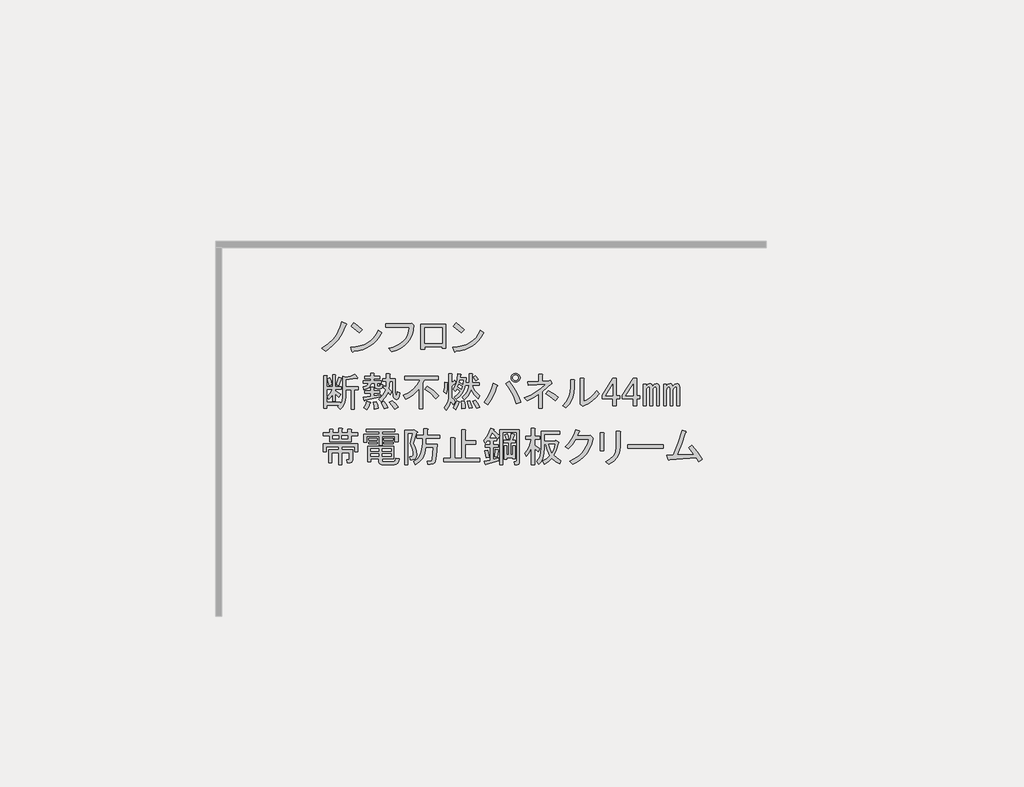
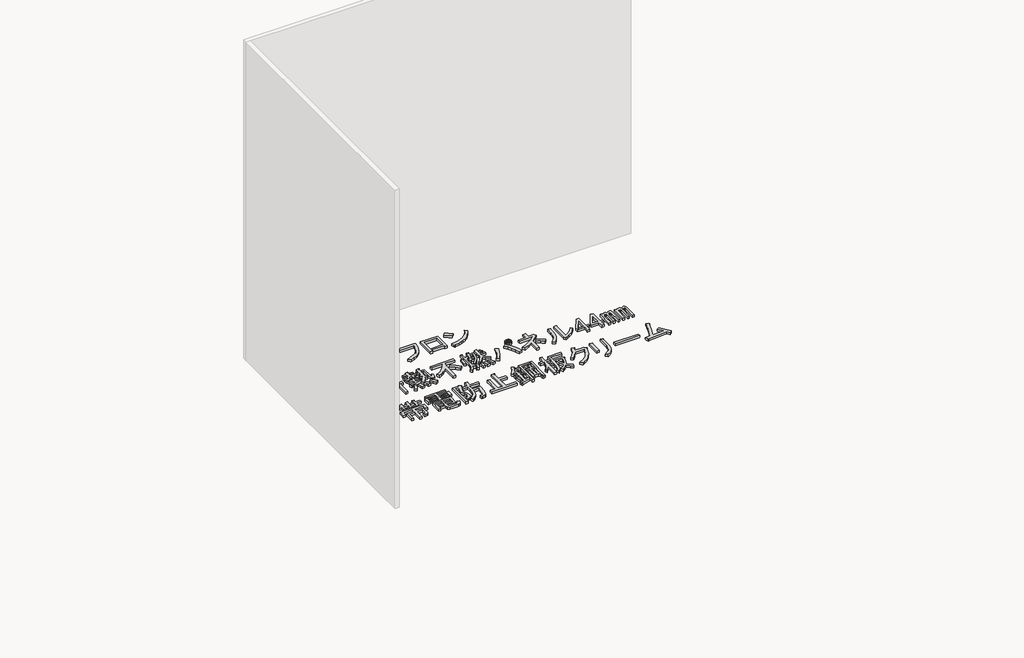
# One storey, part 11 of 117: 1 proxy.
"""IFC4 building model written with IfcOpenShell, lengths in millimetres."""

from ifc_helpers import new_model, si_unit, frame, origin, place, context, project, spatial, polyline, outline, extrude, element, save

model = new_model("IFC4")

# Units and contexts
model_context = context("Model", 3, world=origin())
ifc_project = project(units=[si_unit("LENGTHUNIT", "METRE", prefix="MILLI")], contexts=[model_context])

# Site, building, storey
site = spatial("IfcSite", under=ifc_project)
building = spatial("IfcBuilding", under=site)
storey = spatial("IfcBuildingStorey", under=building, Name="レベル 1", Elevation=500.0)

# Proxy
placement = place(None, origin())
element("IfcBuildingElementProxy", 1, Name="200㎜\u3000MS Pゴシック", ObjectType="200㎜\u3000MS Pゴシック", at=placement, inside=storey, context=model_context, shape_type="SweptSolid", body=[
    extrude(outline(polyline([(-15056.3293015, -20607.0496882), (-15081.9047498, -20666.8215225), (-15110.353844, -20712.7998566), (-15152.0217093, -20758.2034615), (-15201.1610538, -20795.560858), (-15228.7480543, -20773.7211493), (-15181.0455327, -20743.2605029), (-15141.3892195, -20704.7536481), (-15124.0036619, -20680.8305462), (-15108.6296565, -20652.7406577), (-15095.2672031, -20620.4839827), (-15083.9163019, -20584.0605212), (-15052.8809264, -20597.8540214), (-15049.7199159, -20602.4518548), (-15056.3293015, -20607.0496882)])), frame((0.0, 0.0, 500.0), z_axis=(0.0, 0.0, 1.0), x_axis=(1.0, 0.0, 0.0)), (0.0, 0.0, 1.0), 25.0),
    extrude(outline(polyline([(-14956.6022948, -20662.2236891), (-15015.2246708, -20615.0958967), (-14995.6838788, -20590.9572713), (-14968.3842429, -20610.7854279), (-14934.7625862, -20640.3839804), (-14956.6022948, -20662.2236891)])), frame((0.0, 0.0, 500.0), z_axis=(0.0, 0.0, 1.0), x_axis=(1.0, 0.0, 0.0)), (0.0, 0.0, 1.0), 25.0),
    extrude(outline(polyline([(-14794.5286672, -20662.2236891), (-14811.052131, -20691.965924), (-14830.1618761, -20717.9724192), (-14851.8579025, -20740.2431748), (-14876.1402102, -20758.7781907), (-14903.0087992, -20773.577467), (-14932.4636694, -20784.6410036), (-14964.504821, -20791.9688006), (-14999.1322539, -20795.560858), (-15004.8795456, -20803.6070664), (-15010.6268374, -20797.8597747), (-15019.8225042, -20767.9738575), (-14983.9917321, -20765.2977748), (-14951.2142088, -20758.9937141), (-14921.4899342, -20749.0616756), (-14894.8189084, -20735.5016591), (-14871.2011313, -20718.3136646), (-14850.636603, -20697.4976923), (-14833.1253234, -20673.053742), (-14818.6672926, -20644.9818138), (-14794.5286672, -20662.2236891)])), frame((0.0, 0.0, 500.0), z_axis=(0.0, 0.0, 1.0), x_axis=(1.0, 0.0, 0.0)), (0.0, 0.0, 1.0), 25.0),
    extrude(outline(polyline([(-14743.7685864, -20777.1695243), (-14709.985287, -20767.4889298), (-14680.4765359, -20755.1142922), (-14655.242333, -20740.0456116), (-14634.2826783, -20722.282888), (-14617.597572, -20701.8261214), (-14605.1870138, -20678.6753118), (-14597.0510039, -20652.8304591), (-14593.1895423, -20624.2915635), (-14765.6082951, -20624.2915635), (-14765.6082951, -20599.0034798), (-14590.8906256, -20599.0034798), (-14574.7982086, -20595.5551047), (-14562.1541668, -20607.0496882), (-14565.674383, -20643.5449909), (-14573.9361149, -20676.5919185), (-14586.9393625, -20706.1904711), (-14604.6841258, -20732.3406486), (-14627.1704048, -20755.042451), (-14654.3981995, -20774.2958784), (-14686.3675099, -20790.1009308), (-14723.078336, -20802.4576081), (-14743.7685864, -20777.1695243)])), frame((0.0, 0.0, 500.0), z_axis=(0.0, 0.0, 1.0), x_axis=(1.0, 0.0, 0.0)), (0.0, 0.0, 1.0), 25.0),
    extrude(outline(polyline([(-14329.044013, -20776.020066), (-14355.4815551, -20776.020066), (-14355.4815551, -20763.3760241), (-14483.0714321, -20763.3760241), (-14483.0714321, -20781.7673577), (-14509.5089742, -20781.7673577), (-14509.5089742, -20602.4518548), (-14329.044013, -20602.4518548), (-14329.044013, -20776.020066)]), holes=[polyline([(-14483.0714321, -20627.7399386), (-14483.0714321, -20738.0879404), (-14355.4815551, -20738.0879404), (-14355.4815551, -20627.7399386), (-14483.0714321, -20627.7399386)])]), frame((0.0, 0.0, 500.0), z_axis=(0.0, 0.0, 1.0), x_axis=(1.0, 0.0, 0.0)), (0.0, 0.0, 1.0), 25.0),
    extrude(outline(polyline([(-14052.9900951, -20662.2236891), (-14069.5135589, -20691.965924), (-14088.623304, -20717.9724192), (-14110.3193304, -20740.2431748), (-14134.6016381, -20758.7781907), (-14161.4702271, -20773.577467), (-14190.9250974, -20784.6410036), (-14222.9662489, -20791.9688006), (-14257.5936818, -20795.560858), (-14263.3409736, -20803.6070664), (-14269.0882653, -20797.8597747), (-14278.2839321, -20767.9738575), (-14242.4531601, -20765.2977748), (-14209.6756367, -20758.9937141), (-14179.9513622, -20749.0616756), (-14153.2803363, -20735.5016591), (-14129.6625593, -20718.3136646), (-14109.0980309, -20697.4976923), (-14091.5867514, -20673.053742), (-14077.1287205, -20644.9818138), (-14052.9900951, -20662.2236891)])), frame((0.0, 0.0, 500.0), z_axis=(0.0, 0.0, 1.0), x_axis=(1.0, 0.0, 0.0)), (0.0, 0.0, 1.0), 25.0),
    extrude(outline(polyline([(-14215.0637228, -20662.2236891), (-14273.6860987, -20615.0958967), (-14254.1453067, -20590.9572713), (-14226.8456709, -20610.7854279), (-14193.2240141, -20640.3839804), (-14215.0637228, -20662.2236891)])), frame((0.0, 0.0, 500.0), z_axis=(0.0, 0.0, 1.0), x_axis=(1.0, 0.0, 0.0)), (0.0, 0.0, 1.0), 25.0),
    extrude(outline(polyline([(-15122.9978859, -21039.2345221), (-15105.7560106, -20986.3594379), (-15085.0657603, -20992.1067296), (-15083.3415727, -20995.2677401), (-15087.364677, -20997.8540214), (-15104.6065523, -21046.1312722), (-15122.9978859, -21039.2345221)])), frame((0.0, 0.0, 500.0), z_axis=(0.0, 0.0, 1.0), x_axis=(1.0, 0.0, 0.0)), (0.0, 0.0, 1.0), 25.0),
    extrude(outline(polyline([(-14968.9704667, -20990.9572713), (-14970.6946542, -20995.5551047), (-14978.1661335, -20993.256188), (-15055.1798431, -21005.9002299), (-15055.1798431, -21055.326939), (-14963.2231749, -21055.326939), (-14963.2231749, -21077.1666477), (-14994.2585505, -21077.1666477), (-14994.2585505, -21217.4005666), (-15017.2477175, -21217.4005666), (-15017.2477175, -21077.1666477), (-15055.1798431, -21077.1666477), (-15055.1798431, -21126.5933568), (-15057.7661244, -21154.3958807), (-15065.5249683, -21179.1810764), (-15078.4563747, -21200.948944), (-15096.5603438, -21219.6994833), (-15113.8022191, -21200.1586914), (-15103.4570939, -21190.9630245), (-15193.1148454, -21190.9630245), (-15193.1148454, -21212.8027332), (-15216.1040124, -21212.8027332), (-15216.1040124, -20973.715396), (-15194.2643037, -20973.715396), (-15189.3791057, -20976.0143127), (-15193.1148454, -20980.6121461), (-15193.1148454, -21056.4763974), (-15150.5848863, -21056.4763974), (-15150.5848863, -20969.1175626), (-15132.1935527, -20969.1175626), (-15127.3083547, -20971.4164793), (-15131.0440943, -20976.0143127), (-15131.0440943, -21056.4763974), (-15087.364677, -21056.4763974), (-15087.364677, -21074.867731), (-15131.0440943, -21074.867731), (-15131.0440943, -21084.0633978), (-15090.813052, -21110.5009399), (-15104.6065523, -21132.3406486), (-15131.0440943, -21105.9031065), (-15131.0440943, -21158.7781907), (-15150.5848863, -21158.7781907), (-15150.5848863, -21110.5009399), (-15163.8036574, -21130.3290965), (-15178.1718868, -21146.1341488), (-15190.8159287, -21127.7428152), (-15168.97622, -21103.6041898), (-15151.7343447, -21074.867731), (-15193.1148454, -21074.867731), (-15193.1148454, -21169.1233159), (-15095.4108854, -21169.1233159), (-15095.4108854, -21182.9168161), (-15082.479479, -21158.7781907), (-15078.1690102, -21125.4438985), (-15078.1690102, -20980.6121461), (-15056.3293015, -20986.3594379), (-15020.1213634, -20978.8879586), (-14989.660717, -20965.6691875), (-14968.9704667, -20990.9572713)])), frame((0.0, 0.0, 500.0), z_axis=(0.0, 0.0, 1.0), x_axis=(1.0, 0.0, 0.0)), (0.0, 0.0, 1.0), 25.0),
    extrude(outline(polyline([(-15177.0224284, -21047.2807305), (-15189.6664703, -20996.7045631), (-15170.1256783, -20989.8078129), (-15162.3668344, -21013.9464383), (-15157.4816364, -21040.3839804), (-15177.0224284, -21047.2807305)])), frame((0.0, 0.0, 500.0), z_axis=(0.0, 0.0, 1.0), x_axis=(1.0, 0.0, 0.0)), (0.0, 0.0, 1.0), 25.0),
    extrude(outline(polyline([(-14878.1632569, -21167.9738575), (-14874.7148818, -21172.8590555), (-14880.4621736, -21176.020066), (-14890.2325696, -21201.5955143), (-14901.1524239, -21220.8489417), (-14924.141591, -21209.3543582), (-14911.4975491, -21185.790462), (-14901.1524239, -21158.7781907), (-14878.1632569, -21167.9738575)])), frame((0.0, 0.0, 500.0), z_axis=(0.0, 0.0, 1.0), x_axis=(1.0, 0.0, 0.0)), (0.0, 0.0, 1.0), 25.0),
    extrude(outline(polyline([(-14833.3343812, -21163.3760241), (-14823.2766206, -21190.67566), (-14818.3914226, -21212.8027332), (-14847.1278814, -21218.550025), (-14849.7141627, -21196.9976809), (-14857.4730066, -21166.8243992), (-14833.3343812, -21163.3760241)])), frame((0.0, 0.0, 500.0), z_axis=(0.0, 0.0, 1.0), x_axis=(1.0, 0.0, 0.0)), (0.0, 0.0, 1.0), 25.0),
    extrude(outline(polyline([(-14718.388546, -21157.6287323), (-14693.6751914, -21178.8937119), (-14674.7091286, -21203.6070664), (-14701.1466707, -21218.550025), (-14720.4000981, -21188.9514724), (-14739.0787963, -21169.1233159), (-14718.388546, -21157.6287323)])), frame((0.0, 0.0, 500.0), z_axis=(0.0, 0.0, 1.0), x_axis=(1.0, 0.0, 0.0)), (0.0, 0.0, 1.0), 25.0),
    extrude(outline(polyline([(-14777.0109219, -21216.2511083), (-14785.344495, -21191.5377537), (-14798.8506306, -21170.2727742), (-14778.1603803, -21162.2265657), (-14761.2058696, -21183.7789098), (-14749.4239215, -21207.0554415), (-14777.0109219, -21216.2511083)])), frame((0.0, 0.0, 500.0), z_axis=(0.0, 0.0, 1.0), x_axis=(1.0, 0.0, 0.0)), (0.0, 0.0, 1.0), 25.0),
    extrude(outline(polyline([(-14916.0953825, -21153.0308989), (-14918.1069346, -21157.9160969), (-14921.8426743, -21156.479274), (-14927.589966, -21132.3406486), (-14872.4159651, -21124.2944401), (-14872.4159651, -21101.3052731), (-14916.0953825, -21101.3052731), (-14916.0953825, -21082.9139395), (-14872.4159651, -21082.9139395), (-14872.4159651, -21059.9247724), (-14854.0246315, -21059.9247724), (-14849.1394335, -21062.2236891), (-14852.8751732, -21066.8215225), (-14852.8751732, -21082.9139395), (-14808.0462974, -21082.9139395), (-14808.0462974, -21101.3052731), (-14852.8751732, -21101.3052731), (-14852.8751732, -21120.8460651), (-14802.2990057, -21111.6503983), (-14802.2990057, -21127.7428152), (-14916.0953825, -21153.0308989)])), frame((0.0, 0.0, 500.0), z_axis=(0.0, 0.0, 1.0), x_axis=(1.0, 0.0, 0.0)), (0.0, 0.0, 1.0), 25.0),
    extrude(outline(polyline([(-14845.978423, -21031.1883136), (-14871.2665068, -21031.1883136), (-14875.8643402, -21048.6457123), (-14886.2094654, -21061.9363245), (-14902.3018823, -21071.0601502), (-14924.141591, -21076.0171893), (-14928.7394244, -21056.4763974), (-14903.4513406, -21047.8554597), (-14895.9798614, -21040.5276627), (-14891.9567571, -21031.1883136), (-14927.589966, -21031.1883136), (-14927.589966, -21012.79698), (-14873.5654235, -21012.79698), (-14873.5654235, -20995.5551047), (-14917.2448409, -20995.5551047), (-14917.2448409, -20977.1637711), (-14873.5654235, -20977.1637711), (-14873.5654235, -20958.7724374), (-14851.7257148, -20958.7724374), (-14846.8405168, -20961.0713541), (-14850.5762564, -20965.6691875), (-14850.5762564, -20977.1637711), (-14808.0462974, -20977.1637711), (-14808.0462974, -20995.5551047), (-14850.5762564, -20995.5551047), (-14850.5762564, -21012.79698), (-14797.7011723, -21012.79698), (-14797.7011723, -21031.1883136), (-14826.4376311, -21031.1883136), (-14826.4376311, -21043.8323555), (-14825.0008081, -21049.0049181), (-14820.6903393, -21050.7291056), (-14810.3452141, -21050.7291056), (-14806.6094745, -21047.5680951), (-14806.8968391, -21038.0850637), (-14787.3560471, -21040.3839804), (-14790.229693, -21061.9363245), (-14795.5459378, -21067.3244106), (-14803.448464, -21069.1204392), (-14827.5870894, -21069.1204392), (-14841.3805896, -21064.2352412), (-14845.978423, -21049.5796472), (-14845.978423, -21031.1883136)])), frame((0.0, 0.0, 500.0), z_axis=(0.0, 0.0, 1.0), x_axis=(1.0, 0.0, 0.0)), (0.0, 0.0, 1.0), 25.0),
    extrude(outline(polyline([(-14714.9401709, -21013.9464383), (-14736.7798796, -21013.9464383), (-14741.377713, -21071.4193559), (-14721.836921, -21089.8106896), (-14732.1820462, -21111.6503983), (-14748.2744631, -21095.5579813), (-14767.5278905, -21133.2027424), (-14797.7011723, -21165.6749408), (-14814.9430475, -21144.9846905), (-14799.8564067, -21133.0590601), (-14786.7813179, -21117.9724192), (-14775.7177813, -21099.7247679), (-14766.6657967, -21078.316106), (-14783.907672, -21063.3731475), (-14775.8614636, -21046.1312722), (-14762.0679633, -21056.4763974), (-14759.7690466, -21013.9464383), (-14787.3560471, -21013.9464383), (-14787.3560471, -20995.5551047), (-14759.7690466, -20995.5551047), (-14759.7690466, -20961.0713541), (-14737.9293379, -20961.0713541), (-14733.04414, -20963.3702708), (-14736.7798796, -20967.9681043), (-14736.7798796, -20995.5551047), (-14695.3993789, -20995.5551047), (-14695.3993789, -21092.1096063), (-14691.9510039, -21116.2482317), (-14688.7181523, -21118.2597838), (-14685.9163475, -21115.0987733), (-14681.6058787, -21093.2590646), (-14662.0650867, -21100.1558147), (-14666.591079, -21126.9525626), (-14674.421764, -21142.9731384), (-14685.5571418, -21148.2175421), (-14699.9972123, -21142.6857738), (-14706.5347567, -21135.3579768), (-14711.2044313, -21123.719711), (-14714.9401709, -21087.5117729), (-14714.9401709, -21013.9464383)])), frame((0.0, 0.0, 500.0), z_axis=(0.0, 0.0, 1.0), x_axis=(1.0, 0.0, 0.0)), (0.0, 0.0, 1.0), 25.0),
    extrude(outline(polyline([(-14626.4318778, -20980.6121461), (-14385.0456239, -20980.6121461), (-14385.0456239, -21005.9002299), (-14485.0485005, -21005.9002299), (-14495.3936257, -21030.0388553), (-14495.3936257, -21216.2511083), (-14521.8311678, -21216.2511083), (-14521.8311678, -21069.1204392), (-14542.6651004, -21092.3969709), (-14566.0853143, -21112.7998566), (-14592.0918095, -21130.3290965), (-14620.684586, -21144.9846905), (-14636.777003, -21118.5471484), (-14597.192531, -21098.1442626), (-14563.499033, -21072.5688143), (-14535.6965091, -21041.8208034), (-14513.7849593, -21005.9002299), (-14626.4318778, -21005.9002299), (-14626.4318778, -20980.6121461)])), frame((0.0, 0.0, 500.0), z_axis=(0.0, 0.0, 1.0), x_axis=(1.0, 0.0, 0.0)), (0.0, 0.0, 1.0), 25.0),
    extrude(outline(polyline([(-14399.9885824, -21141.5363154), (-14439.0701664, -21103.3168252), (-14480.4506671, -21073.7182726), (-14464.3582502, -21053.0280223), (-14420.6788328, -21081.1897519), (-14379.2983321, -21119.6966067), (-14399.9885824, -21141.5363154)])), frame((0.0, 0.0, 500.0), z_axis=(0.0, 0.0, 1.0), x_axis=(1.0, 0.0, 0.0)), (0.0, 0.0, 1.0), 25.0),
    extrude(outline(polyline([(-14232.167663, -21163.3760241), (-14240.7886007, -21193.8366704), (-14255.1568301, -21220.8489417), (-14274.6976221, -21208.2048998), (-14260.6167573, -21183.4915453), (-14250.5589967, -21155.3298156), (-14232.167663, -21163.3760241)])), frame((0.0, 0.0, 500.0), z_axis=(0.0, 0.0, 1.0), x_axis=(1.0, 0.0, 0.0)), (0.0, 0.0, 1.0), 25.0),
    extrude(outline(polyline([(-14317.2275811, -21025.4410219), (-14312.6297477, -21027.7399386), (-14317.2275811, -21032.337772), (-14318.3770395, -21071.9940851), (-14324.1243312, -21105.9031065), (-14342.5156648, -21093.2590646), (-14336.7683731, -21058.7753141), (-14335.6189147, -21021.9926468), (-14317.2275811, -21025.4410219)])), frame((0.0, 0.0, 500.0), z_axis=(0.0, 0.0, 1.0), x_axis=(1.0, 0.0, 0.0)), (0.0, 0.0, 1.0), 25.0),
    extrude(outline(polyline([(-14265.5019553, -21007.0496882), (-14256.3062884, -21024.2915635), (-14254.8694655, -21030.3262199), (-14259.7546635, -21030.0388553), (-14286.1922056, -21050.7291056), (-14286.1922056, -21134.6395653), (-14272.3987054, -21146.9962426), (-14260.9041219, -21163.3760241), (-14273.5481637, -21184.0662744), (-14291.9394974, -21158.7781907), (-14303.7214455, -21194.6987642), (-14325.2737896, -21224.2973168), (-14340.2167481, -21205.9059831), (-14325.1301073, -21187.1554438), (-14314.3539352, -21166.5370346), (-14307.888232, -21144.0507556), (-14305.7329976, -21119.6966067), (-14305.7329976, -20962.2208125), (-14287.3416639, -20962.2208125), (-14282.456466, -20964.5197292), (-14286.1922056, -20969.1175626), (-14286.1922056, -21027.7399386), (-14265.5019553, -21007.0496882)])), frame((0.0, 0.0, 500.0), z_axis=(0.0, 0.0, 1.0), x_axis=(1.0, 0.0, 0.0)), (0.0, 0.0, 1.0), 25.0),
    extrude(outline(polyline([(-14114.9229111, -20976.0143127), (-14093.0832025, -21000.1529381), (-14110.3250777, -21011.6475216), (-14116.9344633, -21000.1529381), (-14129.8658697, -20986.3594379), (-14114.9229111, -20976.0143127)])), frame((0.0, 0.0, 500.0), z_axis=(0.0, 0.0, 1.0), x_axis=(1.0, 0.0, 0.0)), (0.0, 0.0, 1.0), 25.0),
    extrude(outline(polyline([(-14104.577786, -21212.8027332), (-14117.796557, -21184.6410036), (-14134.4637031, -21159.927649), (-14116.0723695, -21151.8814406), (-14097.1063067, -21174.8706076), (-14081.5886189, -21202.4576081), (-14104.577786, -21212.8027332)])), frame((0.0, 0.0, 500.0), z_axis=(0.0, 0.0, 1.0), x_axis=(1.0, 0.0, 0.0)), (0.0, 0.0, 1.0), 25.0),
    extrude(outline(polyline([(-14154.0044951, -21157.6287323), (-14135.6131615, -21207.0554415), (-14159.7517869, -21211.6532749), (-14173.5452871, -21161.0771074), (-14154.0044951, -21157.6287323)])), frame((0.0, 0.0, 500.0), z_axis=(0.0, 0.0, 1.0), x_axis=(1.0, 0.0, 0.0)), (0.0, 0.0, 1.0), 25.0),
    extrude(outline(polyline([(-14212.6268711, -21215.1016499), (-14212.0521419, -21188.0893787), (-14214.9257878, -21159.927649), (-14195.3849958, -21158.7781907), (-14189.0629748, -21184.9283682), (-14188.4882457, -21212.8027332), (-14212.6268711, -21215.1016499)])), frame((0.0, 0.0, 500.0), z_axis=(0.0, 0.0, 1.0), x_axis=(1.0, 0.0, 0.0)), (0.0, 0.0, 1.0), 25.0),
    extrude(outline(polyline([(-14093.0832025, -21142.6857738), (-14123.8312134, -21112.2251274), (-14144.8088283, -21078.316106), (-14153.2142425, -21100.4431793), (-14164.6369849, -21119.6966067), (-14179.0770554, -21136.0763882), (-14196.5344541, -21149.5825239), (-14210.3279544, -21131.1911902), (-14189.4940217, -21112.2969686), (-14174.1200163, -21091.2475125), (-14164.205938, -21068.042822), (-14159.7517869, -21042.6828971), (-14188.4882457, -21042.6828971), (-14196.462613, -21073.2872258), (-14210.0405898, -21100.7305439), (-14229.222176, -21125.0128516), (-14254.0073717, -21146.1341488), (-14266.6514136, -21130.0417319), (-14240.7886007, -21108.4893878), (-14225.2709129, -21087.5117729), (-14247.1106216, -21067.9709809), (-14260.9041219, -21088.6612312), (-14274.6976221, -21073.7182726), (-14262.2691036, -21054.6803687), (-14252.5705488, -21029.7514907), (-14245.6019575, -20998.9316386), (-14241.3633299, -20962.2208125), (-14220.6730795, -20964.5197292), (-14217.2247045, -20967.1060105), (-14222.9719962, -20970.267021), (-14225.2709129, -20988.6583546), (-14181.5914956, -20988.6583546), (-14185.0398706, -21024.2915635), (-14159.7517869, -21024.2915635), (-14159.7517869, -20962.2208125), (-14137.9120782, -20962.2208125), (-14133.0268802, -20964.5197292), (-14136.7626198, -20969.1175626), (-14136.7626198, -21024.2915635), (-14087.3359107, -21024.2915635), (-14087.3359107, -21042.6828971), (-14136.7626198, -21042.6828971), (-14130.2250755, -21064.4507647), (-14118.6586508, -21084.9254916), (-14102.0633458, -21104.1070778), (-14080.4391606, -21121.9955234), (-14093.0832025, -21142.6857738)]), holes=[polyline([(-14217.2247045, -21072.5688143), (-14210.3279544, -21053.0280223), (-14235.6160381, -21036.9356054), (-14241.3633299, -21054.1774807), (-14217.2247045, -21072.5688143)]), polyline([(-14227.5698296, -21007.0496882), (-14231.0182047, -21023.1421052), (-14205.730121, -21036.9356054), (-14201.1322875, -21007.0496882), (-14227.5698296, -21007.0496882)])]), frame((0.0, 0.0, 500.0), z_axis=(0.0, 0.0, 1.0), x_axis=(1.0, 0.0, 0.0)), (0.0, 0.0, 1.0), 25.0),
    extrude(outline(polyline([(-13867.7893655, -21016.245355), (-13841.1362999, -21052.9561812), (-13818.6500209, -21090.6727833), (-13800.3305284, -21129.3951616), (-13786.1778225, -21169.1233159), (-13817.213198, -21179.468441), (-13832.6590446, -21136.3637528), (-13850.2601256, -21097.856898), (-13870.016441, -21063.9478766), (-13891.9279908, -21034.6366887), (-13867.7893655, -21016.245355)])), frame((0.0, 0.0, 500.0), z_axis=(0.0, 0.0, 1.0), x_axis=(1.0, 0.0, 0.0)), (0.0, 0.0, 1.0), 25.0),
    extrude(outline(polyline([(-13955.1482002, -21042.6828971), (-13951.125096, -21048.1428243), (-13957.4471169, -21053.0280223), (-13969.3727473, -21088.4457078), (-13984.4593882, -21122.282888), (-14002.7070395, -21154.539563), (-14024.1157013, -21185.2157328), (-14050.5532434, -21167.9738575), (-14027.3485529, -21136.5074351), (-14008.310649, -21103.0294606), (-13993.4395316, -21067.539934), (-13982.7352007, -21030.0388553), (-13955.1482002, -21042.6828971)])), frame((0.0, 0.0, 500.0), z_axis=(0.0, 0.0, 1.0), x_axis=(1.0, 0.0, 0.0)), (0.0, 0.0, 1.0), 25.0),
    extrude(outline(polyline([(-13821.8110314, -21021.9926468), (-13834.4550732, -21019.6937301), (-13844.8001984, -21012.79698), (-13851.6969485, -21002.4518548), (-13853.9958652, -20989.8078129), (-13851.6969485, -20977.1637711), (-13844.8001984, -20966.8186459), (-13834.4550732, -20959.9218958), (-13821.8110314, -20957.6229791), (-13809.1669895, -20959.9218958), (-13798.8218643, -20966.8186459), (-13791.9251142, -20977.1637711), (-13789.6261975, -20989.8078129), (-13791.9251142, -21002.4518548), (-13798.8218643, -21012.79698), (-13809.1669895, -21019.6937301), (-13821.8110314, -21021.9926468)]), holes=[polyline([(-13821.8110314, -21010.4980633), (-13813.4774583, -21009.0612403), (-13806.8680728, -21004.7507715), (-13802.557604, -20998.141386), (-13801.120781, -20989.8078129), (-13802.557604, -20981.4742399), (-13806.8680728, -20974.8648544), (-13813.4774583, -20970.5543855), (-13821.8110314, -20969.1175626), (-13830.1446044, -20970.5543855), (-13836.7539899, -20974.8648544), (-13841.0644588, -20981.4742399), (-13842.5012817, -20989.8078129), (-13841.0644588, -20998.141386), (-13836.7539899, -21004.7507715), (-13830.1446044, -21009.0612403), (-13821.8110314, -21010.4980633)])]), frame((0.0, 0.0, 500.0), z_axis=(0.0, 0.0, 1.0), x_axis=(1.0, 0.0, 0.0)), (0.0, 0.0, 1.0), 25.0),
    extrude(outline(polyline([(-13578.1258607, -21011.6475216), (-13571.2291106, -21009.3486049), (-13558.5850688, -21026.5904802), (-13557.4356104, -21032.6251366), (-13563.1829022, -21034.6366887), (-13626.4031115, -21090.9601479), (-13626.4031115, -21211.6532749), (-13652.8406536, -21211.6532749), (-13652.8406536, -21109.3514816), (-13693.0716959, -21133.4901069), (-13737.9005717, -21155.3298156), (-13757.4413637, -21134.6395653), (-13711.8940765, -21115.1706145), (-13670.6572581, -21092.3969709), (-13633.7309085, -21066.3186345), (-13601.1150278, -21036.9356054), (-13731.0038216, -21042.6828971), (-13734.4521966, -21017.3948134), (-13652.8406536, -21015.0958967), (-13652.8406536, -20963.3702708), (-13629.8514866, -20963.3702708), (-13623.8168302, -20966.8186459), (-13626.4031115, -20972.5659377), (-13626.4031115, -21013.9464383), (-13578.1258607, -21011.6475216)])), frame((0.0, 0.0, 500.0), z_axis=(0.0, 0.0, 1.0), x_axis=(1.0, 0.0, 0.0)), (0.0, 0.0, 1.0), 25.0),
    extrude(outline(polyline([(-13532.1475267, -21155.3298156), (-13569.2175585, -21126.0186277), (-13602.2644861, -21104.7536481), (-13585.0226108, -21082.9139395), (-13546.2283915, -21106.1904711), (-13512.6067347, -21132.3406486), (-13532.1475267, -21155.3298156)])), frame((0.0, 0.0, 500.0), z_axis=(0.0, 0.0, 1.0), x_axis=(1.0, 0.0, 0.0)), (0.0, 0.0, 1.0), 25.0),
    extrude(outline(polyline([(-13325.1530666, -21162.2265657), (-13300.3678709, -21150.0135708), (-13276.5884512, -21132.9153778), (-13253.8148076, -21110.9319868), (-13232.0469401, -21084.0633978), (-13215.9545232, -21105.9031065), (-13239.2310548, -21133.7056304), (-13265.3812323, -21157.3413678), (-13294.4050557, -21176.8103186), (-13326.302525, -21192.1124829), (-13335.4981918, -21196.7103163), (-13353.8895254, -21182.9168161), (-13351.5906087, -21177.1695243), (-13351.5906087, -20992.1067296), (-13327.4519833, -20992.1067296), (-13321.7046916, -20995.5551047), (-13325.1530666, -21001.3023965), (-13325.1530666, -21162.2265657)])), frame((0.0, 0.0, 500.0), z_axis=(0.0, 0.0, 1.0), x_axis=(1.0, 0.0, 0.0)), (0.0, 0.0, 1.0), 25.0),
    extrude(outline(polyline([(-13479.1804858, -21193.2619413), (-13454.0360843, -21164.0225944), (-13436.0757976, -21131.4785548), (-13425.2996255, -21095.6298225), (-13421.7075682, -21056.4763974), (-13421.7075682, -21004.7507715), (-13397.5689428, -21004.7507715), (-13391.821651, -21008.1991466), (-13395.2700261, -21013.9464383), (-13395.2700261, -21055.326939), (-13399.0776069, -21101.0897496), (-13410.5003493, -21141.82368), (-13429.5382532, -21177.5287301), (-13456.1913188, -21208.2048998), (-13479.1804858, -21193.2619413)])), frame((0.0, 0.0, 500.0), z_axis=(0.0, 0.0, 1.0), x_axis=(1.0, 0.0, 0.0)), (0.0, 0.0, 1.0), 25.0),
    extrude(outline(polyline([(-13115.9516465, -20993.256188), (-13089.5141045, -20993.256188), (-13089.5141045, -21119.6966067), (-13065.3754791, -21119.6966067), (-13065.3754791, -21141.5363154), (-13089.5141045, -21141.5363154), (-13089.5141045, -21192.1124829), (-13115.9516465, -21192.1124829), (-13115.9516465, -21141.5363154), (-13192.9653561, -21141.5363154), (-13192.9653561, -21118.5471484), (-13115.9516465, -20993.256188)]), holes=[polyline([(-13115.9516465, -21035.786147), (-13167.6772724, -21119.6966067), (-13115.9516465, -21119.6966067), (-13115.9516465, -21035.786147)])]), frame((0.0, 0.0, 500.0), z_axis=(0.0, 0.0, 1.0), x_axis=(1.0, 0.0, 0.0)), (0.0, 0.0, 1.0), 25.0),
    extrude(outline(polyline([(-12968.8209775, -20993.256188), (-12942.3834354, -20993.256188), (-12942.3834354, -21119.6966067), (-12918.24481, -21119.6966067), (-12918.24481, -21141.5363154), (-12942.3834354, -21141.5363154), (-12942.3834354, -21192.1124829), (-12968.8209775, -21192.1124829), (-12968.8209775, -21141.5363154), (-13045.8346871, -21141.5363154), (-13045.8346871, -21118.5471484), (-12968.8209775, -20993.256188)]), holes=[polyline([(-12968.8209775, -21035.786147), (-13020.5466033, -21119.6966067), (-12968.8209775, -21119.6966067), (-12968.8209775, -21035.786147)])]), frame((0.0, 0.0, 500.0), z_axis=(0.0, 0.0, 1.0), x_axis=(1.0, 0.0, 0.0)), (0.0, 0.0, 1.0), 25.0),
    extrude(outline(polyline([(-12874.5653926, -21193.2619413), (-12894.1061846, -21193.2619413), (-12894.1061846, -21035.786147), (-12874.5653926, -21035.786147), (-12874.5653926, -21053.0280223), (-12862.4960799, -21037.5103346), (-12849.2773089, -21032.337772), (-12840.0816421, -21033.7745949), (-12833.1848919, -21038.0850637), (-12826.2881418, -21051.878564), (-12813.3567354, -21037.22297), (-12799.8505997, -21032.337772), (-12791.5170267, -21033.7745949), (-12784.9076412, -21038.0850637), (-12779.7350786, -21046.7060014), (-12778.010891, -21058.7753141), (-12778.010891, -21193.2619413), (-12797.551683, -21193.2619413), (-12797.551683, -21069.1204392), (-12800.1379643, -21059.6374078), (-12807.8968082, -21056.4763974), (-12818.2419334, -21061.0742308), (-12824.2765897, -21069.6951684), (-12826.2881418, -21079.4655644), (-12826.2881418, -21193.2619413), (-12845.8289338, -21193.2619413), (-12845.8289338, -21069.1204392), (-12848.4152151, -21059.6374078), (-12856.174059, -21056.4763974), (-12866.5191842, -21061.0742308), (-12872.5538405, -21069.6951684), (-12874.5653926, -21079.4655644), (-12874.5653926, -21193.2619413)])), frame((0.0, 0.0, 500.0), z_axis=(0.0, 0.0, 1.0), x_axis=(1.0, 0.0, 0.0)), (0.0, 0.0, 1.0), 25.0),
    extrude(outline(polyline([(-12652.7199307, -21032.337772), (-12644.3863576, -21033.7745949), (-12637.7769721, -21038.0850637), (-12632.6044095, -21046.7060014), (-12630.880222, -21058.7753141), (-12630.880222, -21193.2619413), (-12650.421014, -21193.2619413), (-12650.421014, -21069.1204392), (-12653.0072953, -21059.6374078), (-12660.7661391, -21056.4763974), (-12671.1112643, -21061.0742308), (-12677.1459207, -21069.6951684), (-12679.1574728, -21079.4655644), (-12679.1574728, -21193.2619413), (-12698.6982648, -21193.2619413), (-12698.6982648, -21069.1204392), (-12701.284546, -21059.6374078), (-12709.0433899, -21056.4763974), (-12719.3885151, -21061.0742308), (-12725.4231714, -21069.6951684), (-12727.4347236, -21079.4655644), (-12727.4347236, -21193.2619413), (-12746.9755155, -21193.2619413), (-12746.9755155, -21035.786147), (-12727.4347236, -21035.786147), (-12727.4347236, -21053.0280223), (-12715.3654109, -21037.5103346), (-12702.1466398, -21032.337772), (-12692.950973, -21033.7745949), (-12686.0542229, -21038.0850637), (-12679.1574728, -21051.878564), (-12666.2260663, -21037.22297), (-12652.7199307, -21032.337772)])), frame((0.0, 0.0, 500.0), z_axis=(0.0, 0.0, 1.0), x_axis=(1.0, 0.0, 0.0)), (0.0, 0.0, 1.0), 25.0),
    extrude(outline(polyline([(-14967.8210084, -21526.5933568), (-14990.8101754, -21526.5933568), (-14990.8101754, -21489.8106896), (-15082.7668436, -21489.8106896), (-15082.7668436, -21513.949315), (-15005.753134, -21513.949315), (-15005.753134, -21588.6641078), (-15010.3509674, -21602.4576081), (-15024.1444676, -21607.0554415), (-15045.9841763, -21607.0554415), (-15049.4325514, -21585.2157328), (-15033.3401344, -21585.2157328), (-15029.8917594, -21584.0662744), (-15028.742301, -21580.6178994), (-15028.742301, -21535.7890237), (-15082.7668436, -21535.7890237), (-15082.7668436, -21623.1478584), (-15105.7560106, -21623.1478584), (-15105.7560106, -21535.7890237), (-15157.4816364, -21535.7890237), (-15157.4816364, -21608.2048998), (-15180.4708035, -21608.2048998), (-15180.4708035, -21513.949315), (-15105.7560106, -21513.949315), (-15105.7560106, -21489.8106896), (-15197.7126788, -21489.8106896), (-15197.7126788, -21526.5933568), (-15220.7018458, -21526.5933568), (-15220.7018458, -21467.9709809), (-14967.8210084, -21467.9709809), (-14967.8210084, -21526.5933568)])), frame((0.0, 0.0, 500.0), z_axis=(0.0, 0.0, 1.0), x_axis=(1.0, 0.0, 0.0)), (0.0, 0.0, 1.0), 25.0),
    extrude(outline(polyline([(-15172.424595, -21453.0280223), (-15172.424595, -21432.337772), (-15172.424595, -21411.6475216), (-15218.4029291, -21411.6475216), (-15218.4029291, -21389.8078129), (-15172.424595, -21389.8078129), (-15172.424595, -21364.5197292), (-15150.5848863, -21364.5197292), (-15145.6996883, -21366.8186459), (-15149.435428, -21371.4164793), (-15149.435428, -21389.8078129), (-15105.7560106, -21389.8078129), (-15105.7560106, -21357.6229791), (-15083.9163019, -21357.6229791), (-15079.0311039, -21359.9218958), (-15082.7668436, -21364.5197292), (-15082.7668436, -21389.8078129), (-15040.2368845, -21389.8078129), (-15040.2368845, -21364.5197292), (-15018.3971758, -21364.5197292), (-15013.5119779, -21366.8186459), (-15017.2477175, -21371.4164793), (-15017.2477175, -21389.8078129), (-14970.1199251, -21389.8078129), (-14970.1199251, -21411.6475216), (-15017.2477175, -21411.6475216), (-15017.2477175, -21453.0280223), (-15172.424595, -21453.0280223)]), holes=[polyline([(-15040.2368845, -21411.6475216), (-15082.7668436, -21411.6475216), (-15082.7668436, -21434.6366887), (-15040.2368845, -21434.6366887), (-15040.2368845, -21411.6475216)]), polyline([(-15105.7560106, -21411.6475216), (-15149.435428, -21411.6475216), (-15149.435428, -21434.6366887), (-15105.7560106, -21434.6366887), (-15105.7560106, -21411.6475216)])]), frame((0.0, 0.0, 500.0), z_axis=(0.0, 0.0, 1.0), x_axis=(1.0, 0.0, 0.0)), (0.0, 0.0, 1.0), 25.0),
    extrude(outline(polyline([(-14666.6629201, -21578.3189827), (-14669.4647249, -21596.9258397), (-14676.7206807, -21610.2164519), (-14688.4307877, -21618.1908193), (-14704.5950457, -21620.8489417), (-14794.2527972, -21620.8489417), (-14809.770485, -21615.9637437), (-14813.6499069, -21609.8572462), (-14814.9430475, -21601.3081497), (-14814.9430475, -21579.468441), (-14874.7148818, -21579.468441), (-14874.7148818, -21599.009233), (-14894.2556738, -21599.009233), (-14894.2556738, -21486.3623145), (-14706.8939624, -21486.3623145), (-14706.8939624, -21579.468441), (-14791.9538805, -21579.468441), (-14791.9538805, -21589.8135662), (-14789.9423284, -21596.7103163), (-14783.907672, -21599.009233), (-14708.0434208, -21599.009233), (-14701.4340353, -21597.4287278), (-14696.5488373, -21592.6872121), (-14691.9510039, -21573.7211493), (-14666.6629201, -21578.3189827)]), holes=[polyline([(-14874.7148818, -21561.0771074), (-14814.9430475, -21561.0771074), (-14814.9430475, -21541.5363154), (-14874.7148818, -21541.5363154), (-14874.7148818, -21561.0771074)]), polyline([(-14874.7148818, -21523.1449818), (-14814.9430475, -21523.1449818), (-14814.9430475, -21504.7536481), (-14874.7148818, -21504.7536481), (-14874.7148818, -21523.1449818)]), polyline([(-14791.9538805, -21561.0771074), (-14726.4347544, -21561.0771074), (-14726.4347544, -21541.5363154), (-14791.9538805, -21541.5363154), (-14791.9538805, -21561.0771074)]), polyline([(-14791.9538805, -21523.1449818), (-14726.4347544, -21523.1449818), (-14726.4347544, -21504.7536481), (-14791.9538805, -21504.7536481), (-14791.9538805, -21523.1449818)])]), frame((0.0, 0.0, 500.0), z_axis=(0.0, 0.0, 1.0), x_axis=(1.0, 0.0, 0.0)), (0.0, 0.0, 1.0), 25.0),
    extrude(outline(polyline([(-14888.5083821, -21442.6828971), (-14888.5083821, -21428.8893969), (-14825.2881727, -21428.8893969), (-14825.2881727, -21442.6828971), (-14888.5083821, -21442.6828971)])), frame((0.0, 0.0, 500.0), z_axis=(0.0, 0.0, 1.0), x_axis=(1.0, 0.0, 0.0)), (0.0, 0.0, 1.0), 25.0),
    extrude(outline(polyline([(-14825.2881727, -21470.2698976), (-14888.5083821, -21470.2698976), (-14888.5083821, -21456.4763974), (-14825.2881727, -21456.4763974), (-14825.2881727, -21470.2698976)])), frame((0.0, 0.0, 500.0), z_axis=(0.0, 0.0, 1.0), x_axis=(1.0, 0.0, 0.0)), (0.0, 0.0, 1.0), 25.0),
    extrude(outline(polyline([(-14778.1603803, -21470.2698976), (-14778.1603803, -21456.4763974), (-14711.4917959, -21456.4763974), (-14711.4917959, -21470.2698976), (-14778.1603803, -21470.2698976)])), frame((0.0, 0.0, 500.0), z_axis=(0.0, 0.0, 1.0), x_axis=(1.0, 0.0, 0.0)), (0.0, 0.0, 1.0), 25.0),
    extrude(outline(polyline([(-14778.1603803, -21442.6828971), (-14778.1603803, -21428.8893969), (-14711.4917959, -21428.8893969), (-14711.4917959, -21442.6828971), (-14778.1603803, -21442.6828971)])), frame((0.0, 0.0, 500.0), z_axis=(0.0, 0.0, 1.0), x_axis=(1.0, 0.0, 0.0)), (0.0, 0.0, 1.0), 25.0),
    extrude(outline(polyline([(-14698.847754, -21381.7616045), (-14790.8044221, -21381.7616045), (-14790.8044221, -21400.1529381), (-14675.8585869, -21400.1529381), (-14675.8585869, -21455.326939), (-14698.847754, -21455.326939), (-14698.847754, -21413.9464383), (-14790.8044221, -21413.9464383), (-14790.8044221, -21479.4655644), (-14813.7935892, -21479.4655644), (-14813.7935892, -21413.9464383), (-14902.3018823, -21413.9464383), (-14902.3018823, -21459.9247724), (-14925.2910493, -21459.9247724), (-14925.2910493, -21400.1529381), (-14813.7935892, -21400.1529381), (-14813.7935892, -21381.7616045), (-14905.7502573, -21381.7616045), (-14905.7502573, -21363.3702708), (-14698.847754, -21363.3702708), (-14698.847754, -21381.7616045)])), frame((0.0, 0.0, 500.0), z_axis=(0.0, 0.0, 1.0), x_axis=(1.0, 0.0, 0.0)), (0.0, 0.0, 1.0), 25.0),
    extrude(outline(polyline([(-14475.8528337, -21495.5579813), (-14483.0369484, -21538.7345107), (-14497.6925424, -21574.0085139), (-14519.8196156, -21601.3799909), (-14549.4181682, -21620.8489417), (-14560.9127517, -21597.8597747), (-14533.2539101, -21578.0316181), (-14513.4975947, -21549.5825239), (-14501.6438055, -21512.512492), (-14497.6925424, -21466.8215225), (-14497.6925424, -21428.8893969), (-14541.3719597, -21428.8893969), (-14541.3719597, -21407.0496882), (-14488.4968756, -21407.0496882), (-14488.4968756, -21358.7724374), (-14463.2087918, -21358.7724374), (-14457.1741355, -21362.2208125), (-14462.0593335, -21367.9681043), (-14462.0593335, -21407.0496882), (-14373.5510404, -21407.0496882), (-14373.5510404, -21428.8893969), (-14474.7033753, -21428.8893969), (-14474.7033753, -21473.7182726), (-14391.942374, -21473.7182726), (-14397.6896657, -21555.9045448), (-14405.7358742, -21600.1586914), (-14410.6210722, -21608.7077879), (-14418.3799161, -21614.8142854), (-14442.5185415, -21619.6994833), (-14460.9098751, -21619.6994833), (-14464.3582502, -21597.8597747), (-14447.1163749, -21597.8597747), (-14434.7596976, -21594.6987642), (-14427.5755829, -21585.2157328), (-14418.3799161, -21495.5579813), (-14475.8528337, -21495.5579813)])), frame((0.0, 0.0, 500.0), z_axis=(0.0, 0.0, 1.0), x_axis=(1.0, 0.0, 0.0)), (0.0, 0.0, 1.0), 25.0),
    extrude(outline(polyline([(-14542.5214181, -21520.8460651), (-14540.5817071, -21548.5049067), (-14545.1076994, -21568.2612221), (-14556.0993949, -21580.1150114), (-14573.5567936, -21584.0662744), (-14587.3502938, -21584.0662744), (-14591.9481272, -21562.2265657), (-14580.4535437, -21562.2265657), (-14572.1199707, -21560.0713313), (-14566.6600435, -21553.6056281), (-14564.0737622, -21542.8294561), (-14564.3611268, -21527.7428152), (-14571.2578769, -21500.7305439), (-14587.3502938, -21465.6720642), (-14568.9589602, -21394.4056463), (-14603.4427108, -21394.4056463), (-14603.4427108, -21623.1478584), (-14626.4318778, -21623.1478584), (-14626.4318778, -21372.5659377), (-14562.0622101, -21372.5659377), (-14559.7632934, -21367.9681043), (-14535.624668, -21380.6121461), (-14534.187845, -21384.3478858), (-14539.073043, -21386.3594379), (-14565.5105851, -21464.5226058), (-14549.9928974, -21496.9948043), (-14542.5214181, -21520.8460651)])), frame((0.0, 0.0, 500.0), z_axis=(0.0, 0.0, 1.0), x_axis=(1.0, 0.0, 0.0)), (0.0, 0.0, 1.0), 25.0),
    extrude(outline(polyline([(-14188.4882457, -21366.8186459), (-14182.4535893, -21370.267021), (-14187.3387873, -21376.0143127), (-14187.3387873, -21446.1312722), (-14111.4745361, -21446.1312722), (-14111.4745361, -21471.4193559), (-14187.3387873, -21471.4193559), (-14187.3387873, -21574.8706076), (-14081.5886189, -21574.8706076), (-14081.5886189, -21600.1586914), (-14344.8145815, -21600.1586914), (-14344.8145815, -21574.8706076), (-14291.9394974, -21574.8706076), (-14291.9394974, -21424.2915635), (-14266.6514136, -21424.2915635), (-14260.6167573, -21427.7399386), (-14265.5019553, -21433.4872303), (-14265.5019553, -21574.8706076), (-14213.7763294, -21574.8706076), (-14213.7763294, -21366.8186459), (-14188.4882457, -21366.8186459)])), frame((0.0, 0.0, 500.0), z_axis=(0.0, 0.0, 1.0), x_axis=(1.0, 0.0, 0.0)), (0.0, 0.0, 1.0), 25.0),
    extrude(outline(polyline([(-13882.732324, -21397.8540214), (-13875.5482093, -21413.0843446), (-13870.0882822, -21433.4872303), (-13887.3301574, -21439.2345221), (-13898.824741, -21402.4518548), (-13882.732324, -21397.8540214)])), frame((0.0, 0.0, 500.0), z_axis=(0.0, 0.0, 1.0), x_axis=(1.0, 0.0, 0.0)), (0.0, 0.0, 1.0), 25.0),
    extrude(outline(polyline([(-13829.8572398, -21399.0034798), (-13827.2709585, -21402.4518548), (-13833.3056149, -21405.9002299), (-13845.9496568, -21443.8323555), (-13825.2594064, -21443.8323555), (-13825.2594064, -21462.2236891), (-13856.2947819, -21462.2236891), (-13856.2947819, -21550.7319822), (-13841.3518234, -21550.7319822), (-13841.3518234, -21482.9139395), (-13825.2594064, -21482.9139395), (-13825.2594064, -21577.1695243), (-13841.3518234, -21577.1695243), (-13841.3518234, -21569.1233159), (-13887.3301574, -21569.1233159), (-13887.3301574, -21581.7673577), (-13903.4225744, -21581.7673577), (-13903.4225744, -21485.2128562), (-13887.3301574, -21485.2128562), (-13887.3301574, -21550.7319822), (-13872.3871989, -21550.7319822), (-13872.3871989, -21462.2236891), (-13908.0204078, -21462.2236891), (-13908.0204078, -21443.8323555), (-13862.0420737, -21443.8323555), (-13851.6969485, -21394.4056463), (-13829.8572398, -21399.0034798)])), frame((0.0, 0.0, 500.0), z_axis=(0.0, 0.0, 1.0), x_axis=(1.0, 0.0, 0.0)), (0.0, 0.0, 1.0), 25.0),
    extrude(outline(polyline([(-13950.5503668, -21434.6366887), (-13991.9308675, -21390.9572713), (-14013.7705762, -21430.0388553), (-13958.5965753, -21430.0388553), (-13958.5965753, -21448.4301889), (-13985.0341174, -21448.4301889), (-13985.0341174, -21477.1666477), (-13947.1019917, -21477.1666477), (-13947.1019917, -21495.5579813), (-13985.0341174, -21495.5579813), (-13985.0341174, -21582.9168161), (-13945.9525334, -21572.5716909), (-13943.6536167, -21592.1124829), (-14035.6102848, -21617.4005666), (-14037.9092016, -21623.1478584), (-14042.507035, -21619.6994833), (-14049.4037851, -21596.7103163), (-14004.5749093, -21587.5146495), (-14004.5749093, -21495.5579813), (-14042.507035, -21495.5579813), (-14042.507035, -21477.1666477), (-14004.5749093, -21477.1666477), (-14004.5749093, -21448.4301889), (-14026.414618, -21448.4301889), (-14041.3575766, -21466.8215225), (-14054.0016185, -21446.1312722), (-14025.8398889, -21408.4865112), (-14001.1265343, -21357.6229791), (-13979.2868256, -21363.3702708), (-13975.8384505, -21367.1060105), (-13981.5857423, -21369.1175626), (-13982.7352007, -21372.5659377), (-13937.9063249, -21410.4980633), (-13950.5503668, -21434.6366887)])), frame((0.0, 0.0, 500.0), z_axis=(0.0, 0.0, 1.0), x_axis=(1.0, 0.0, 0.0)), (0.0, 0.0, 1.0), 25.0),
    extrude(outline(polyline([(-13935.6074082, -21365.6691875), (-13795.3734893, -21365.6691875), (-13795.3734893, -21605.9059831), (-13799.1092289, -21617.1132021), (-13810.3164478, -21620.8489417), (-13826.4088648, -21620.8489417), (-13831.0066982, -21599.009233), (-13819.5121147, -21599.009233), (-13816.0637396, -21597.8597747), (-13814.9142813, -21594.4113996), (-13814.9142813, -21384.0605212), (-13916.0666162, -21384.0605212), (-13916.0666162, -21623.1478584), (-13935.6074082, -21623.1478584), (-13935.6074082, -21365.6691875)])), frame((0.0, 0.0, 500.0), z_axis=(0.0, 0.0, 1.0), x_axis=(1.0, 0.0, 0.0)), (0.0, 0.0, 1.0), 25.0),
    extrude(outline(polyline([(-13947.1019917, -21513.949315), (-13944.5157105, -21517.1103254), (-13948.2514501, -21519.6966067), (-13956.2976586, -21566.8243992), (-13974.6889922, -21564.5254825), (-13968.9417004, -21510.5009399), (-13947.1019917, -21513.949315)])), frame((0.0, 0.0, 500.0), z_axis=(0.0, 0.0, 1.0), x_axis=(1.0, 0.0, 0.0)), (0.0, 0.0, 1.0), 25.0),
    extrude(outline(polyline([(-14024.1157013, -21515.0987733), (-14012.6211178, -21566.8243992), (-14033.3113681, -21572.5716909), (-14044.8059517, -21520.8460651), (-14024.1157013, -21515.0987733)])), frame((0.0, 0.0, 500.0), z_axis=(0.0, 0.0, 1.0), x_axis=(1.0, 0.0, 0.0)), (0.0, 0.0, 1.0), 25.0),
    extrude(outline(polyline([(-13624.1041948, -21594.4113996), (-13595.367736, -21577.1695243), (-13573.5280273, -21555.3298156), (-13591.3446318, -21513.3745858), (-13601.1150278, -21472.5688143), (-13613.7590697, -21472.5688143), (-13613.7590697, -21496.7074397), (-13616.2016686, -21538.4471461), (-13623.5294656, -21572.8590555), (-13635.7424606, -21599.9431679), (-13652.8406536, -21619.6994833), (-13666.6341538, -21596.7103163), (-13653.5590651, -21579.3247587), (-13644.219716, -21557.0540032), (-13638.6161065, -21529.8980496), (-13636.7482367, -21497.856898), (-13636.7482367, -21377.1637711), (-13499.9626928, -21377.1637711), (-13499.9626928, -21399.0034798), (-13613.7590697, -21399.0034798), (-13613.7590697, -21450.7291056), (-13534.4464434, -21450.7291056), (-13528.6991516, -21444.9818138), (-13509.1583596, -21458.7753141), (-13507.7215367, -21462.5110537), (-13512.6067347, -21466.8215225), (-13524.963412, -21513.3745858), (-13543.6421102, -21554.1803573), (-13524.6760474, -21572.5716909), (-13493.0659427, -21590.9630245), (-13502.2616095, -21615.1016499), (-13530.1359745, -21599.009233), (-13558.5850688, -21573.7211493), (-13583.0110587, -21598.1471392), (-13614.908528, -21618.550025), (-13624.1041948, -21594.4113996)]), holes=[polyline([(-13579.2753191, -21472.5688143), (-13571.2291106, -21505.6157419), (-13558.5850688, -21533.4901069), (-13545.9410269, -21507.3399294), (-13537.8948184, -21472.5688143), (-13579.2753191, -21472.5688143)])]), frame((0.0, 0.0, 500.0), z_axis=(0.0, 0.0, 1.0), x_axis=(1.0, 0.0, 0.0)), (0.0, 0.0, 1.0), 25.0),
    extrude(outline(polyline([(-13706.8651962, -21623.1478584), (-13706.8651962, -21503.6041898), (-13724.6818006, -21537.8005758), (-13743.6478634, -21559.927649), (-13755.142447, -21539.2373987), (-13737.9005717, -21516.5355963), (-13724.1070714, -21492.1096063), (-13713.7619463, -21465.9594288), (-13706.8651962, -21438.0850637), (-13748.2456968, -21438.0850637), (-13748.2456968, -21416.245355), (-13706.8651962, -21416.245355), (-13706.8651962, -21356.4735207), (-13685.0254875, -21356.4735207), (-13680.1402895, -21358.7724374), (-13683.8760291, -21363.3702708), (-13683.8760291, -21416.245355), (-13645.9439035, -21416.245355), (-13645.9439035, -21438.0850637), (-13683.8760291, -21438.0850637), (-13683.8760291, -21478.316106), (-13645.9439035, -21504.7536481), (-13656.2890287, -21527.7428152), (-13683.8760291, -21504.7536481), (-13683.8760291, -21623.1478584), (-13706.8651962, -21623.1478584)])), frame((0.0, 0.0, 500.0), z_axis=(0.0, 0.0, 1.0), x_axis=(1.0, 0.0, 0.0)), (0.0, 0.0, 1.0), 25.0),
    extrude(outline(polyline([(-13263.1742723, -21438.0850637), (-13270.1967444, -21468.294266), (-13280.3443064, -21496.2763928), (-13293.6169583, -21522.031444), (-13310.0147001, -21545.5594196), (-13329.5375318, -21566.8603197), (-13352.1854534, -21585.9341443), (-13377.9584649, -21602.7808932), (-13406.8565663, -21617.4005666), (-13427.5468166, -21595.560858), (-13376.8269668, -21568.4049044), (-13355.669749, -21551.7018377), (-13337.314336, -21532.9153778), (-13321.7607277, -21512.0455246), (-13309.0089241, -21489.0922781), (-13299.0589252, -21464.0556384), (-13291.9107311, -21436.9356054), (-13383.8673992, -21436.9356054), (-13410.8796705, -21476.3045539), (-13439.0414001, -21507.0525648), (-13462.0305672, -21492.1096063), (-13434.8027725, -21463.9478766), (-13412.8912226, -21433.4872303), (-13396.2959177, -21400.7276673), (-13385.0168576, -21365.6691875), (-13358.5793155, -21374.8648544), (-13355.7056696, -21378.3132294), (-13360.8782322, -21381.7616045), (-13373.5222741, -21411.6475216), (-13290.7612727, -21411.6475216), (-13280.4161476, -21405.9002299), (-13259.7258972, -21426.5904802), (-13256.5648868, -21433.4872303), (-13263.1742723, -21438.0850637)])), frame((0.0, 0.0, 500.0), z_axis=(0.0, 0.0, 1.0), x_axis=(1.0, 0.0, 0.0)), (0.0, 0.0, 1.0), 25.0),
    extrude(outline(polyline([(-13063.3984107, -21494.408523), (-13068.427291, -21534.495883), (-13083.5139319, -21568.5485867), (-13108.6583333, -21596.566634), (-13143.8604953, -21618.550025), (-13166.8496624, -21599.009233), (-13133.5872113, -21579.468441), (-13109.6641094, -21555.3298156), (-13095.0803565, -21526.5933568), (-13089.8359528, -21493.2590646), (-13089.8359528, -21378.3132294), (-13065.6973274, -21378.3132294), (-13059.3753065, -21381.7616045), (-13063.3984107, -21387.5088962), (-13063.3984107, -21494.408523)])), frame((0.0, 0.0, 500.0), z_axis=(0.0, 0.0, 1.0), x_axis=(1.0, 0.0, 0.0)), (0.0, 0.0, 1.0), 25.0),
    extrude(outline(polyline([(-13181.792621, -21519.6966067), (-13208.230163, -21519.6966067), (-13208.230163, -21389.8078129), (-13182.9420793, -21389.8078129), (-13176.907423, -21392.6814588), (-13181.792621, -21399.0034798), (-13181.792621, -21519.6966067)])), frame((0.0, 0.0, 500.0), z_axis=(0.0, 0.0, 1.0), x_axis=(1.0, 0.0, 0.0)), (0.0, 0.0, 1.0), 25.0),
    extrude(outline(polyline([(-13007.0749514, -21501.3052731), (-13007.0749514, -21476.0171893), (-12750.7457389, -21476.0171893), (-12750.7457389, -21501.3052731), (-13007.0749514, -21501.3052731)])), frame((0.0, 0.0, 500.0), z_axis=(0.0, 0.0, 1.0), x_axis=(1.0, 0.0, 0.0)), (0.0, 0.0, 1.0), 25.0),
    extrude(outline(polyline([(-12723.4346085, -21554.1803573), (-12675.1573577, -21553.0308989), (-12638.662055, -21462.5110537), (-12611.9371483, -21370.267021), (-12585.4996062, -21379.4626878), (-12580.9017728, -21385.4973441), (-12587.798523, -21389.8078129), (-12613.3739713, -21470.8446268), (-12646.4208989, -21550.7319822), (-12526.8772303, -21544.9846905), (-12564.8093559, -21497.856898), (-12541.8201889, -21481.7644811), (-12503.6006987, -21528.0301798), (-12467.105396, -21581.7673577), (-12492.3934797, -21599.009233), (-12510.7848134, -21569.1233159), (-12703.8938165, -21584.0662744), (-12709.9284729, -21589.8135662), (-12714.2389417, -21584.0662744), (-12723.4346085, -21554.1803573)])), frame((0.0, 0.0, 500.0), z_axis=(0.0, 0.0, 1.0), x_axis=(1.0, 0.0, 0.0)), (0.0, 0.0, 1.0), 25.0),
])

save(model, "model.ifc")
